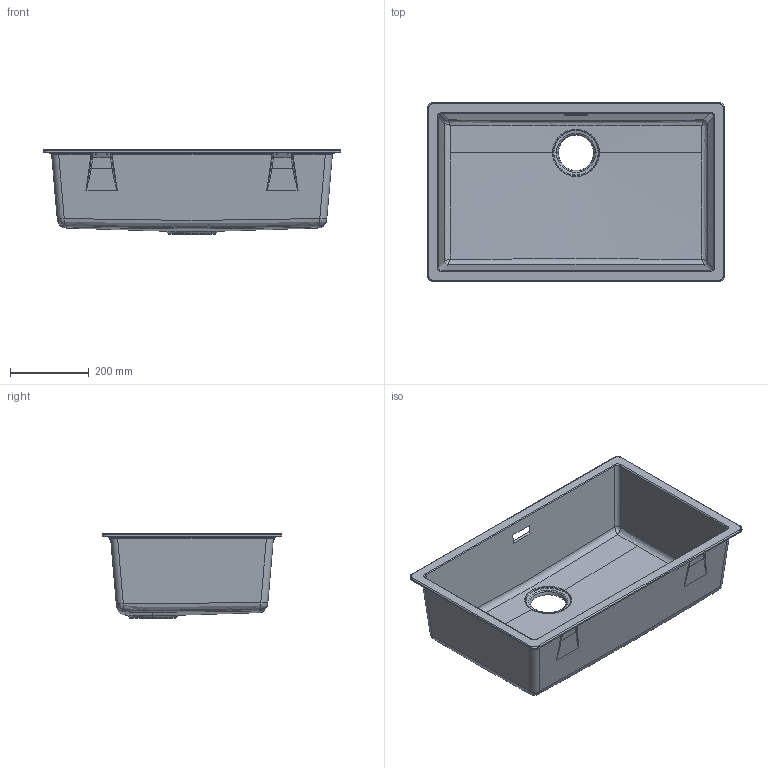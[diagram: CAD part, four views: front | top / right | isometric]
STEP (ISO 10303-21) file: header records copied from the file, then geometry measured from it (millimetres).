
FILE_DESCRIPTION (( 'STEP AP203' ), '1' );
FILE_NAME ('Zen130.STEP', '2018-10-11T10:44:04', ( '' ), ( '' ), 'SwSTEP 2.0', 'SolidWorks 2013', '' );
FILE_SCHEMA (( 'CONFIG_CONTROL_DESIGN' ));
Length unit declared in the file: millimetre
Products named in the file (1): Zen130
Bounding box: 756 x 456 x 215.43 mm (x, y, z)
Volume: 5548689.6 mm3; surface area: 1411562.7 mm2
Topology: 1 solids, 1 shells, 403 faces, 958 edges, 542 vertices
Faces by surface type: bspline 196, cylinder 89, plane 34, torus 32, cone 28, sphere 24
Entity records: 18976 total; most frequent: CARTESIAN_POINT 11152, ORIENTED_EDGE 1868, DIRECTION 1309, EDGE_CURVE 934, AXIS2_PLACEMENT_3D 567, VERTEX_POINT 542, EDGE_LOOP 416, ADVANCED_FACE 403
